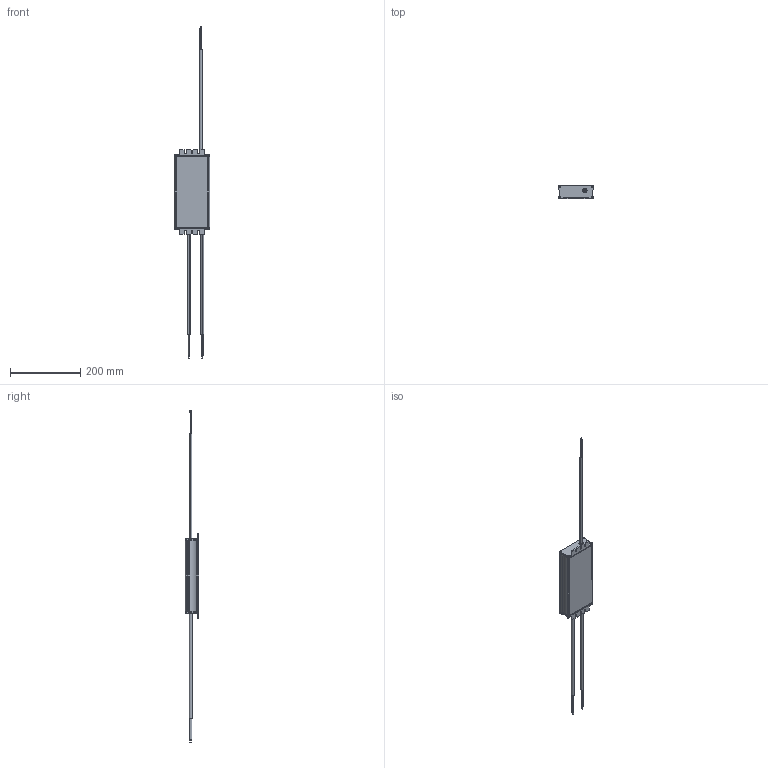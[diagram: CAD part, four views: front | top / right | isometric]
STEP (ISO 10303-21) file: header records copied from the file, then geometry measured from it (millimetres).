
FILE_DESCRIPTION (( 'STEP AP203' ), '1' );
FILE_NAME ('3D_USCO-320210GA.STEP', '2019-06-12T01:57:28', ( '' ), ( '' ), 'SwSTEP 2.0', 'SolidWorks 2016', '' );
FILE_SCHEMA (( 'CONFIG_CONTROL_DESIGN' ));
Length unit declared in the file: millimetre
Products named in the file (10): INPUT wire; 399207990000; 399-IN; 399211450000; OUTPUT wire; DIM wire; 324288800000; 324550020000; 3D_USCO-320210GA; 3100401000
Assembly tree (16 placements, depth 2):
  3D_USCO-320210GA
    399207990000
    324288800000
    399-IN
    OUTPUT wire
    INPUT wire
    324550020000
    399211450000
    DIM wire
    3100401000  x8
Bounding box: 100 x 38 x 944 mm (x, y, z)
Volume: 220013.8 mm3; surface area: 180619 mm2
Topology: 16 solids, 16 shells, 1224 faces, 3222 edges, 2096 vertices
Faces by surface type: cylinder 519, plane 393, bspline 216, cone 42, torus 38, sphere 16
Entity records: 38701 total; most frequent: CARTESIAN_POINT 20040, ORIENTED_EDGE 3924, DIRECTION 3040, EDGE_CURVE 1962, VERTEX_POINT 1291, LINE 1028, VECTOR 1028, AXIS2_PLACEMENT_3D 1006
